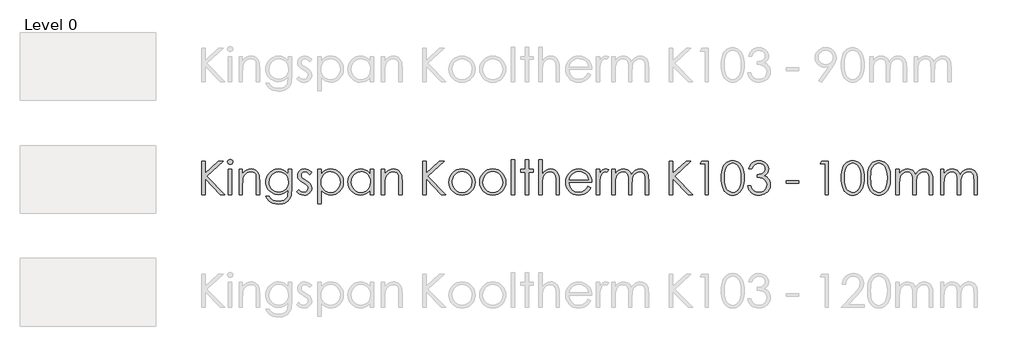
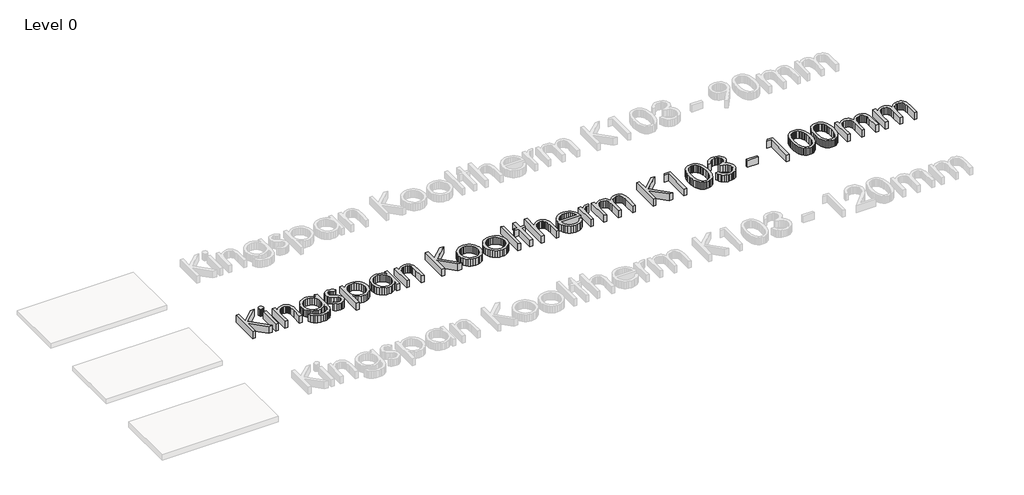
# One storey, part 5 of 13: 1 proxy.
"""IFC4 building model written with IfcOpenShell, lengths in millimetres."""

from ifc_helpers import new_model, si_unit, origin, origin_with_axes, place, context, project, spatial, polyline, outline, extrude, element, save

model = new_model("IFC4")

# Units and contexts
model_context = context("Model", 3, world=origin())
ifc_project = project(units=[si_unit("LENGTHUNIT", "METRE", prefix="MILLI")], contexts=[model_context])

# Site, building, storey
site = spatial("IfcSite", under=ifc_project)
building = spatial("IfcBuilding", under=site)
storey = spatial("IfcBuildingStorey", under=building, Name="Level 0", Elevation=0.0)

# Proxy
placement = place(None, origin())
element("IfcBuildingElementProxy", 1, Name="600mm KI_CenturyGothic", ObjectType="600mm KI_CenturyGothic", at=placement, inside=storey, context=model_context, shape_type="SweptSolid", body=[
    extrude(outline(polyline([(-3852.2663848, -10099.1034017), (-3792.944575, -10099.1034017), (-3792.944575, -10318.316027), (-3555.1938841, -10099.1034017), (-3471.6181051, -10099.1034017), (-3760.9664119, -10366.0515459), (-3441.9572002, -10692.3214999), (-3520.8984627, -10692.3214999), (-3792.944575, -10414.0960325), (-3792.944575, -10692.3214999), (-3852.2663848, -10692.3214999), (-3852.2663848, -10099.1034017)])), origin_with_axes(), (0.0, 0.0, 1.0), 150.0),
    extrude(outline(polyline([(-3348.1854852, -10069.4424967), (-3329.145347, -10072.7252792), (-3313.1176445, -10082.5736265), (-3302.226531, -10097.0178693), (-3298.5961598, -10114.088338), (-3302.226531, -10130.9270809), (-3313.1176445, -10145.2940817), (-3329.145347, -10155.142429), (-3348.1854852, -10158.4252115), (-3366.9938975, -10155.142429), (-3382.9443581, -10145.2940817), (-3393.8354717, -10130.9270809), (-3397.4658428, -10114.088338), (-3393.8354717, -10097.0178693), (-3382.9443581, -10082.5736265), (-3366.9938975, -10072.7252792), (-3348.1854852, -10069.4424967)])), origin_with_axes(), (0.0, 0.0, 1.0), 150.0),
    extrude(outline(polyline([(-3377.6919062, -10247.4079262), (-3318.3700964, -10247.4079262), (-3318.3700964, -10692.3214999), (-3377.6919062, -10692.3214999), (-3377.6919062, -10247.4079262)])), origin_with_axes(), (0.0, 0.0, 1.0), 150.0),
    extrude(outline(polyline([(-3189.8395084, -10247.4079262), (-3130.5176986, -10247.4079262), (-3130.5176986, -10326.5036726), (-3096.9946967, -10286.9944204), (-3060.0730495, -10259.303185), (-3019.7141359, -10242.9665147), (-2975.879335, -10237.5209579), (-2953.4357238, -10239.0995901), (-2932.2955704, -10243.8354865), (-2912.4588747, -10251.7286472), (-2893.9256368, -10262.7790723), (-2877.212412, -10276.5039994), (-2862.835756, -10292.4206667), (-2841.0921499, -10330.8292213), (-2833.6238199, -10355.2087086), (-2828.2892984, -10385.5551357), (-2824.0216812, -10464.1488095), (-2824.0216812, -10692.3214999), (-2883.343491, -10692.3214999), (-2883.343491, -10479.1337458), (-2883.343491, -10376.092998), (-2884.7290183, -10355.2956057), (-2889.8125035, -10337.2403023), (-2898.2849788, -10321.9270877), (-2910.1464442, -10309.355962), (-2924.7403432, -10299.5558909), (-2941.4101193, -10292.5558401), (-2980.977303, -10286.9557994), (-3005.3471351, -10289.1137461), (-3028.4038541, -10295.5875862), (-3050.1474602, -10306.3773197), (-3070.5779533, -10321.4829466), (-3088.6622225, -10339.7651482), (-3103.3671568, -10360.084606), (-3114.6927562, -10382.44132), (-3122.6390208, -10406.8352901), (-3128.5480292, -10453.9142525), (-3130.5176986, -10528.4141035), (-3130.5176986, -10692.3214999), (-3189.8395084, -10692.3214999), (-3189.8395084, -10247.4079262)])), origin_with_axes(), (0.0, 0.0, 1.0), 150.0),
    extrude(outline(polyline([(-2319.7862977, -10247.4079262), (-2260.4644879, -10247.4079262), (-2260.4644879, -10598.395301), (-2264.5196897, -10678.6496765), (-2269.588692, -10709.4499001), (-2276.6852953, -10734.0321474), (-2289.9371156, -10762.6454585), (-2307.2924139, -10787.7732271), (-2328.7511904, -10809.4154531), (-2354.3134448, -10827.5721366), (-2383.3226209, -10841.9343098), (-2415.122162, -10852.1930049), (-2449.7120682, -10858.348222), (-2487.0923395, -10860.3999611), (-2541.0458345, -10856.3833802), (-2589.206184, -10844.3336376), (-2630.260275, -10825.5059147), (-2662.8949946, -10801.1553932), (-2690.2000204, -10767.8061856), (-2715.2650299, -10721.9824048), (-2655.94322, -10721.9824048), (-2642.4355358, -10743.151524), (-2627.0933555, -10761.3951046), (-2609.9166791, -10776.7131468), (-2590.9055067, -10789.1056506), (-2569.7894914, -10798.6691682), (-2546.2982864, -10805.5002523), (-2492.1903075, -10810.9651195), (-2438.5071593, -10805.6354257), (-2415.083541, -10798.9733084), (-2393.93856, -10789.6463441), (-2359.6624492, -10765.6047903), (-2336.8567664, -10736.1176798), (-2329.3884364, -10717.4782342), (-2324.0539149, -10693.7697863), (-2319.7862977, -10631.1458835), (-2319.7862977, -10608.4367532), (-2354.757586, -10644.2190818), (-2396.6420279, -10670.6165148), (-2443.392712, -10686.8952536), (-2492.9627269, -10692.3214999), (-2522.4063889, -10690.4242447), (-2550.9521133, -10684.7324793), (-2578.5999001, -10675.2462036), (-2605.3497494, -10661.9654175), (-2630.1540674, -10645.4742634), (-2651.9652601, -10626.3568832), (-2670.7833277, -10604.6132772), (-2686.6082702, -10580.2434451), (-2699.1456025, -10553.9280817), (-2708.1008399, -10526.3478816), (-2713.4739824, -10497.5028447), (-2715.2650299, -10467.392971), (-2713.3967404, -10437.1044753), (-2707.7918722, -10407.8780563), (-2698.4504251, -10379.713714), (-2685.3723991, -10352.6114483), (-2668.9971079, -10327.4257483), (-2649.7638648, -10305.0111029), (-2627.67267, -10285.367512), (-2602.7235235, -10268.4949758), (-2575.9833294, -10254.943843), (-2548.5189922, -10245.2644624), (-2520.3305117, -10239.456834), (-2491.4178881, -10237.5209579), (-2444.5320306, -10242.4644421), (-2400.8903346, -10257.2948945), (-2359.6045177, -10283.8661218), (-2319.7862977, -10324.0319306), (-2319.7862977, -10247.4079262)]), holes=[polyline([(-2484.1571458, -10286.9557994), (-2529.0154023, -10292.9806707), (-2570.5908765, -10311.0552847), (-2606.2187212, -10339.7699758), (-2633.2340897, -10377.7150788), (-2650.2659375, -10421.9940208), (-2655.94322, -10469.7102292), (-2653.0080263, -10505.6229036), (-2644.2024452, -10538.2817613), (-2629.5264766, -10567.6868023), (-2608.9801206, -10593.8380266), (-2583.7606272, -10615.296803), (-2555.0652466, -10630.6245004), (-2522.8939786, -10639.8211189), (-2487.2468234, -10642.8866584), (-2451.3244937, -10639.845257), (-2419.1001219, -10630.7210528), (-2390.573708, -10615.5140459), (-2365.7452519, -10594.2242363), (-2345.6382095, -10567.9812872), (-2331.2760363, -10537.9148621), (-2322.6587323, -10504.024961), (-2319.7862977, -10466.3115838), (-2325.0773706, -10417.6105407), (-2340.9505892, -10374.3936754), (-2366.4983608, -10338.1672056), (-2400.8130926, -10310.4373492), (-2440.9982119, -10292.8261869), (-2484.1571458, -10286.9557994)])]), origin_with_axes(), (0.0, 0.0, 1.0), 150.0),
    extrude(outline(polyline([(-1904.5336289, -10298.6965743), (-1940.9918246, -10336.390641), (-1962.9575012, -10314.7628978), (-1984.6721416, -10299.3145098), (-2006.1357456, -10290.045477), (-2027.3483133, -10286.9557994), (-2052.181597, -10291.6289368), (-2073.2300256, -10305.6483489), (-2087.5970264, -10325.8857371), (-2092.3860267, -10349.212803), (-2088.4466878, -10370.7633042), (-2076.628671, -10391.2324183), (-2052.0657341, -10413.400855), (-2010.2006027, -10439.122421), (-1958.3326401, -10471.9888664), (-1939.8428507, -10487.8138088), (-1926.315856, -10503.2332311), (-1909.9791857, -10535.9065716), (-1904.5336289, -10572.4420092), (-1906.9474396, -10598.5884059), (-1914.1888714, -10622.6492701), (-1926.2579245, -10644.624602), (-1943.1545989, -10664.5144015), (-1963.6719892, -10681.0055557), (-1986.6031901, -10692.7849515), (-2011.9482016, -10699.852589), (-2039.7070237, -10702.2084682), (-2077.4397114, -10698.3270607), (-2113.3958344, -10686.6828383), (-2145.4512394, -10668.2027042), (-2171.4817731, -10643.8135617), (-2135.7959969, -10603.3387852), (-2114.0041146, -10624.9665283), (-2091.5749863, -10640.4149163), (-2068.5086121, -10649.6839491), (-2044.8049918, -10652.7736267), (-2013.637869, -10647.1349651), (-1987.4914724, -10630.2189802), (-1969.7644472, -10605.6560434), (-1963.8554388, -10577.0765256), (-1967.7561567, -10553.2860081), (-1979.4583106, -10532.2762005), (-2005.0253927, -10510.5712154), (-2050.2119275, -10483.7682622), (-2099.762632, -10453.1032121), (-2117.441381, -10437.9444814), (-2130.3890611, -10422.9016136), (-2146.3781427, -10390.7689666), (-2151.7078365, -10354.310771), (-2149.5305794, -10330.2643896), (-2142.9988078, -10308.3325063), (-2132.1125219, -10288.5151211), (-2116.8717217, -10270.812234), (-2098.309518, -10256.2473007), (-2077.4590218, -10245.8437769), (-2054.3202332, -10239.6016627), (-2028.8931521, -10237.5209579), (-1997.9481, -10241.3444339), (-1966.9064954, -10252.814862), (-1935.7683384, -10271.9322421), (-1904.5336289, -10298.6965743)])), origin_with_axes(), (0.0, 0.0, 1.0), 150.0),
    extrude(outline(polyline([(-1795.7769776, -10247.4079262), (-1736.4551678, -10247.4079262), (-1736.4551678, -10328.5119631), (-1700.9238754, -10288.2689124), (-1660.4490989, -10259.9211205), (-1614.9922173, -10243.1209986), (-1564.5146096, -10237.5209579), (-1520.0618732, -10241.7596094), (-1478.9305402, -10254.4755637), (-1441.1206107, -10275.668821), (-1406.6320845, -10305.3393811), (-1377.9077381, -10340.9768811), (-1357.3903478, -10380.070958), (-1345.0799137, -10422.6216116), (-1340.9764356, -10468.628842), (-1345.0412927, -10515.5291824), (-1357.235864, -10558.7508754), (-1377.5601494, -10598.293921), (-1406.014149, -10634.1583192), (-1440.2130179, -10663.9302594), (-1477.7719111, -10685.1959309), (-1518.6908288, -10697.9553339), (-1562.9697708, -10702.2084682), (-1612.6170277, -10696.743601), (-1658.0545988, -10680.3489992), (-1699.3211052, -10653.1019049), (-1736.4551678, -10615.07956), (-1736.4551678, -10850.5129928), (-1795.7769776, -10850.5129928), (-1795.7769776, -10247.4079262)]), holes=[polyline([(-1568.5311905, -10286.9557994), (-1602.5852307, -10290.2530647), (-1633.8392507, -10300.1448607), (-1662.2932503, -10316.6311872), (-1687.9472295, -10339.7120444), (-1709.1694525, -10367.6977647), (-1724.3281832, -10398.8986808), (-1733.4234216, -10433.3147926), (-1736.4551678, -10470.9461002), (-1731.048232, -10519.8016272), (-1714.8274246, -10563.4819442), (-1688.5265441, -10600.3263495), (-1652.8793888, -10628.6741414), (-1611.4390881, -10646.7487554), (-1567.7587711, -10652.7736267), (-1525.0632888, -10646.7101344), (-1485.0326535, -10628.5196576), (-1450.2544701, -10599.4187567), (-1423.3163435, -10560.6239924), (-1406.05277, -10515.9588407), (-1400.2982454, -10469.2467775), (-1405.9948385, -10422.3029886), (-1423.0846177, -10377.8695627), (-1449.8103289, -10339.5189395), (-1484.414718, -10310.8235589), (-1524.7157001, -10292.9227393), (-1568.5311905, -10286.9557994)])]), origin_with_axes(), (0.0, 0.0, 1.0), 150.0),
    extrude(outline(polyline([(-807.0801472, -10247.4079262), (-807.0801472, -10692.3214999), (-866.401957, -10692.3214999), (-866.401957, -10616.4699149), (-903.4780882, -10654.3184655), (-944.8797679, -10681.0441767), (-990.4525125, -10696.9173953), (-1040.0418379, -10702.2084682), (-1084.3159523, -10697.9553339), (-1125.2203871, -10685.1959309), (-1162.7551422, -10663.9302594), (-1196.9202178, -10634.1583192), (-1225.340424, -10598.293921), (-1245.6405713, -10558.7508754), (-1257.8206597, -10515.5291824), (-1261.8806892, -10468.628842), (-1257.7820388, -10422.6216116), (-1245.4860875, -10380.070958), (-1224.9928353, -10340.9768811), (-1196.3022822, -10305.3393811), (-1161.8475494, -10275.668821), (-1124.061758, -10254.4755637), (-1082.9449079, -10241.7596094), (-1038.4969991, -10237.5209579), (-987.7490446, -10243.1209986), (-942.0990581, -10259.9211205), (-921.2051134, -10272.6081091), (-901.6242816, -10288.2689124), (-866.401957, -10328.5119631), (-866.401957, -10247.4079262), (-807.0801472, -10247.4079262)]), holes=[polyline([(-1034.3259343, -10286.9557994), (-1078.1414247, -10292.9227393), (-1118.4424068, -10310.8235589), (-1153.0467959, -10339.5189395), (-1179.7725071, -10377.8695627), (-1196.8622863, -10422.3029886), (-1202.5588794, -10469.2467775), (-1196.8043548, -10515.9588407), (-1179.5407813, -10560.6239924), (-1152.6026548, -10599.4187567), (-1117.8244713, -10628.5196576), (-1077.6779731, -10646.7101344), (-1034.6349021, -10652.7736267), (-991.0125165, -10646.7487554), (-949.7460102, -10628.6741414), (-914.2726493, -10600.3263495), (-888.0297002, -10563.4819442), (-871.8088928, -10519.8016272), (-866.401957, -10470.9461002), (-869.4337032, -10433.3147926), (-878.5289416, -10398.8986808), (-893.6876723, -10367.6977647), (-914.9098953, -10339.7120444), (-940.5638746, -10316.6311872), (-969.0178742, -10300.1448607), (-1000.2718941, -10290.2530647), (-1034.3259343, -10286.9557994)])]), origin_with_axes(), (0.0, 0.0, 1.0), 150.0),
    extrude(outline(polyline([(-668.662591, -10247.4079262), (-609.3407811, -10247.4079262), (-609.3407811, -10326.5036726), (-575.8177792, -10286.9944204), (-538.896132, -10259.303185), (-498.5372184, -10242.9665147), (-454.7024175, -10237.5209579), (-432.2588064, -10239.0995901), (-411.1186529, -10243.8354865), (-391.2819572, -10251.7286472), (-372.7487193, -10262.7790723), (-356.0354946, -10276.5039994), (-341.6588385, -10292.4206667), (-319.9152324, -10330.8292213), (-312.4469024, -10355.2087086), (-307.1123809, -10385.5551357), (-302.8447637, -10464.1488095), (-302.8447637, -10692.3214999), (-362.1665735, -10692.3214999), (-362.1665735, -10479.1337458), (-362.1665735, -10376.092998), (-363.5521008, -10355.2956057), (-368.635586, -10337.2403023), (-377.1080613, -10321.9270877), (-388.9695267, -10309.355962), (-403.5634257, -10299.5558909), (-420.2332018, -10292.5558401), (-459.8003855, -10286.9557994), (-484.1702176, -10289.1137461), (-507.2269366, -10295.5875862), (-528.9705427, -10306.3773197), (-549.4010358, -10321.4829466), (-567.485305, -10339.7651482), (-582.1902393, -10360.084606), (-593.5158387, -10382.44132), (-601.4621033, -10406.8352901), (-607.3711117, -10453.9142525), (-609.3407811, -10528.4141035), (-609.3407811, -10692.3214999), (-668.662591, -10692.3214999), (-668.662591, -10247.4079262)])), origin_with_axes(), (0.0, 0.0, 1.0), 150.0),
    extrude(outline(polyline([(62.9730635, -10099.1034017), (122.2948734, -10099.1034017), (122.2948734, -10318.316027), (360.0455643, -10099.1034017), (443.6213432, -10099.1034017), (154.2730365, -10366.0515459), (473.2822481, -10692.3214999), (394.3409856, -10692.3214999), (122.2948734, -10414.0960325), (122.2948734, -10692.3214999), (62.9730635, -10692.3214999), (62.9730635, -10099.1034017)])), origin_with_axes(), (0.0, 0.0, 1.0), 150.0),
    extrude(outline(polyline([(760.1588128, -10237.5209579), (809.4681362, -10242.1458191), (854.3553585, -10256.0204025), (894.8204798, -10279.1447083), (930.8635, -10311.5187363), (957.7630055, -10346.7507161), (976.9769381, -10385.091684), (988.5052976, -10426.54164), (992.3480841, -10471.1005841), (988.283227, -10515.9153921), (976.0886558, -10557.8239721), (955.7643703, -10596.8263241), (927.3103707, -10632.9224481), (892.4742558, -10663.2350819), (853.0036246, -10684.8869632), (808.8984769, -10697.8780919), (760.1588128, -10702.2084682), (711.2839754, -10697.8780919), (667.0822753, -10684.8869632), (627.5537126, -10663.2350819), (592.6982872, -10632.9224481), (564.2442876, -10596.8263241), (543.9200022, -10557.8239721), (531.7254309, -10515.9153921), (527.6605738, -10471.1005841), (531.5033603, -10426.7347449), (543.0317198, -10385.4006518), (562.2456524, -10347.0983049), (589.145158, -10311.8277041), (625.2074886, -10279.3185026), (665.7305413, -10256.0976445), (710.7143161, -10242.1651295), (760.1588128, -10237.5209579)]), holes=[polyline([(760.004329, -10286.9557994), (725.7282181, -10290.3303067), (693.9624704, -10300.4538284), (664.7070856, -10317.3263647), (637.962064, -10340.9479154), (615.6584538, -10369.3584664), (599.7273037, -10400.5980035), (590.1686137, -10434.6665266), (586.9823836, -10471.5640357), (592.7948396, -10519.2995546), (610.2322075, -10563.6364281), (637.5758543, -10601.4270471), (673.1071466, -10629.5238028), (714.6439998, -10646.9611707), (760.004329, -10652.7736267), (805.3646581, -10646.9611707), (846.9015113, -10629.5238028), (882.4328037, -10601.4270471), (909.7764504, -10563.6364281), (927.2138183, -10519.2995546), (933.0262743, -10471.5640357), (929.8255614, -10434.6665266), (920.2234227, -10400.5980035), (904.2198583, -10369.3584664), (881.8148681, -10340.9479154), (854.9974321, -10317.3263647), (825.7565303, -10300.4538284), (794.0921625, -10290.3303067), (760.004329, -10286.9557994)])]), origin_with_axes(), (0.0, 0.0, 1.0), 150.0),
    extrude(outline(polyline([(1303.9420695, -10237.5209579), (1353.2513929, -10242.1458191), (1398.1386152, -10256.0204025), (1438.6037365, -10279.1447083), (1474.6467567, -10311.5187363), (1501.5462622, -10346.7507161), (1520.7601948, -10385.091684), (1532.2885543, -10426.54164), (1536.1313408, -10471.1005841), (1532.0664837, -10515.9153921), (1519.8719125, -10557.8239721), (1499.547627, -10596.8263241), (1471.0936274, -10632.9224481), (1436.2575126, -10663.2350819), (1396.7868813, -10684.8869632), (1352.6817336, -10697.8780919), (1303.9420695, -10702.2084682), (1255.0672321, -10697.8780919), (1210.865532, -10684.8869632), (1171.3369693, -10663.2350819), (1136.4815439, -10632.9224481), (1108.0275443, -10596.8263241), (1087.7032589, -10557.8239721), (1075.5086876, -10515.9153921), (1071.4438305, -10471.1005841), (1075.286617, -10426.7347449), (1086.8149766, -10385.4006518), (1106.0289091, -10347.0983049), (1132.9284147, -10311.8277041), (1168.9907453, -10279.3185026), (1209.5137981, -10256.0976445), (1254.4975728, -10242.1651295), (1303.9420695, -10237.5209579)]), holes=[polyline([(1303.7875857, -10286.9557994), (1269.5114748, -10290.3303067), (1237.7457271, -10300.4538284), (1208.4903423, -10317.3263647), (1181.7453207, -10340.9479154), (1159.4417105, -10369.3584664), (1143.5105604, -10400.5980035), (1133.9518704, -10434.6665266), (1130.7656404, -10471.5640357), (1136.5780963, -10519.2995546), (1154.0154643, -10563.6364281), (1181.359111, -10601.4270471), (1216.8904033, -10629.5238028), (1258.4272565, -10646.9611707), (1303.7875857, -10652.7736267), (1349.1479149, -10646.9611707), (1390.684768, -10629.5238028), (1426.2160604, -10601.4270471), (1453.5597071, -10563.6364281), (1470.997075, -10519.2995546), (1476.809531, -10471.5640357), (1473.6088181, -10434.6665266), (1464.0066795, -10400.5980035), (1448.003115, -10369.3584664), (1425.5981249, -10340.9479154), (1398.7806889, -10317.3263647), (1369.539787, -10300.4538284), (1337.8754193, -10290.3303067), (1303.7875857, -10286.9557994)])]), origin_with_axes(), (0.0, 0.0, 1.0), 150.0),
    extrude(outline(polyline([(1635.0010238, -10079.3294651), (1694.3228337, -10079.3294651), (1694.3228337, -10692.3214999), (1635.0010238, -10692.3214999), (1635.0010238, -10079.3294651)])), origin_with_axes(), (0.0, 0.0, 1.0), 150.0),
    extrude(outline(polyline([(1882.1752314, -10079.3294651), (1941.4970413, -10079.3294651), (1941.4970413, -10247.4079262), (2020.5927877, -10247.4079262), (2020.5927877, -10296.8427677), (1941.4970413, -10296.8427677), (1941.4970413, -10692.3214999), (1882.1752314, -10692.3214999), (1882.1752314, -10296.8427677), (1803.079485, -10296.8427677), (1803.079485, -10247.4079262), (1882.1752314, -10247.4079262), (1882.1752314, -10079.3294651)])), origin_with_axes(), (0.0, 0.0, 1.0), 150.0),
    extrude(outline(polyline([(2119.4624707, -10079.3294651), (2178.7842806, -10079.3294651), (2178.7842806, -10328.0485114), (2212.5583188, -10288.3461544), (2249.6151394, -10260.0756044), (2289.9161216, -10243.1596195), (2333.4226442, -10237.5209579), (2355.8662553, -10239.0995901), (2377.0064088, -10243.8354865), (2396.8431044, -10251.7286472), (2415.3763424, -10262.7790723), (2432.0895671, -10276.4895166), (2446.4662232, -10292.3627352), (2468.2098293, -10330.5974955), (2475.6781593, -10354.9045684), (2481.0126808, -10385.2654784), (2485.280298, -10464.1488095), (2485.280298, -10692.3214999), (2425.9584882, -10692.3214999), (2425.9584882, -10479.1337458), (2424.5681332, -10414.752589), (2420.3970685, -10376.092998), (2406.879729, -10337.2403023), (2397.1665551, -10321.9270877), (2385.4837117, -10309.355962), (2371.840854, -10299.5558909), (2356.2476374, -10292.5558401), (2319.2101273, -10286.9557994), (2296.3416854, -10289.1137461), (2274.6994594, -10295.5875862), (2254.2834492, -10306.3773197), (2235.0936547, -10321.4829466), (2218.1052556, -10339.7651482), (2204.2934312, -10360.084606), (2193.6581816, -10382.44132), (2186.1995068, -10406.8352901), (2180.6380871, -10453.6825267), (2178.7842806, -10528.4141035), (2178.7842806, -10692.3214999), (2119.4624707, -10692.3214999), (2119.4624707, -10079.3294651)])), origin_with_axes(), (0.0, 0.0, 1.0), 150.0),
    extrude(outline(polyline([(2991.0605203, -10544.0169753), (3038.950523, -10569.1978477), (3013.3255094, -10611.0822896), (2984.0315038, -10644.0452875), (2950.952643, -10669.1296074), (2913.9730643, -10687.3780157), (2872.4941426, -10698.5008551), (2825.9172528, -10702.2084682), (2774.4258447, -10697.7767119), (2728.8627554, -10684.481443), (2689.227985, -10662.3226615), (2655.5215335, -10631.3003674), (2628.6220279, -10594.6973431), (2609.4080954, -10555.7963712), (2597.8797358, -10514.5974515), (2594.0369493, -10471.1005841), (2597.3197318, -10430.2202874), (2607.1680791, -10391.618628), (2623.5819913, -10355.2956057), (2646.5614684, -10321.2512207), (2682.7493173, -10284.6192308), (2724.5758277, -10258.4535236), (2772.0409998, -10242.7540993), (2825.1448334, -10237.5209579), (2879.7935059, -10242.8892727), (2928.6490329, -10258.9942172), (2971.7114143, -10285.8357913), (3008.9806503, -10323.4139951), (3030.4539096, -10355.585263), (3045.9022976, -10391.541386), (3055.3258143, -10431.2823641), (3058.7244596, -10474.8081972), (2653.3587591, -10474.8081972), (2657.095338, -10512.0629503), (2666.6057518, -10545.8128504), (2681.8900007, -10576.0578975), (2702.9480845, -10602.7980916), (2728.3124066, -10624.6623882), (2756.5153699, -10640.2797429), (2787.5569744, -10649.6501557), (2821.4372203, -10652.7736267), (2854.9602222, -10649.761191), (2887.5563208, -10640.7238841), (2917.2944677, -10626.6851615), (2942.2436143, -10608.668479), (2965.725164, -10582.5027719), (2991.0605203, -10544.0169753)]), holes=[polyline([(2999.4026498, -10425.3733557), (2984.9777175, -10382.8516678), (2965.1844704, -10349.8307385), (2939.0766947, -10324.3022774), (2905.7081767, -10304.257994), (2867.7630738, -10291.2813481), (2827.9255433, -10286.9557994), (2795.503239, -10289.6689226), (2765.4368139, -10297.808292), (2737.726268, -10311.3739077), (2712.3716012, -10330.3657696), (2695.8321708, -10348.179692), (2681.4362043, -10369.9522638), (2669.1837016, -10395.683485), (2659.0746627, -10425.3733557), (2999.4026498, -10425.3733557)])]), origin_with_axes(), (0.0, 0.0, 1.0), 150.0),
    extrude(outline(polyline([(3137.820206, -10247.4079262), (3197.1420159, -10247.4079262), (3197.1420159, -10311.8277041), (3222.6897875, -10278.7874643), (3249.589293, -10255.6728138), (3277.7632906, -10242.0589219), (3307.1345382, -10237.5209579), (3330.4616041, -10241.305813), (3355.3335087, -10252.6603781), (3325.8270877, -10294.6799934), (3297.2475699, -10286.9557994), (3270.8308265, -10292.9034288), (3245.3409863, -10310.7463169), (3223.2884125, -10341.1023993), (3207.183468, -10384.5896114), (3199.6523789, -10442.7141712), (3197.1420159, -10540.1548783), (3197.1420159, -10692.3214999), (3137.820206, -10692.3214999), (3137.820206, -10247.4079262)])), origin_with_axes(), (0.0, 0.0, 1.0), 150.0),
    extrude(outline(polyline([(3414.6553185, -10247.4079262), (3473.9771284, -10247.4079262), (3473.9771284, -10323.5684789), (3503.5607913, -10287.0716623), (3533.9168737, -10261.9294109), (3577.3268439, -10243.6230712), (3622.8995884, -10237.5209579), (3653.7384329, -10240.668567), (3682.9165757, -10250.1113941), (3708.6767627, -10264.7873627), (3729.2617397, -10283.634396), (3746.0425511, -10309.0663047), (3760.3902414, -10343.4968994), (3775.16759, -10319.0981017), (3791.6925376, -10297.808292), (3809.965084, -10279.6274704), (3829.9852293, -10264.5556369), (3851.2798666, -10252.7279648), (3873.375889, -10244.2796277), (3896.2732965, -10239.2106253), (3919.9720892, -10237.5209579), (3962.3006723, -10243.3334139), (3981.4952943, -10250.5989839), (3999.3768034, -10260.7707818), (4015.4914031, -10273.53984), (4029.385297, -10288.5971907), (4050.5109676, -10325.5767694), (4057.8103309, -10348.9521114), (4063.0241619, -10377.5219739), (4067.1952266, -10450.2452603), (4067.1952266, -10692.3214999), (4007.8734168, -10692.3214999), (4007.8734168, -10446.6921311), (4005.4209852, -10385.5744462), (3998.0636904, -10347.1272706), (3984.7587663, -10322.6608861), (3964.4634466, -10303.4855746), (3938.3942919, -10291.0882432), (3907.7678627, -10286.9557994), (3888.1194443, -10288.5054659), (3869.3399976, -10293.1544651), (3834.3880198, -10311.7504621), (3805.6540182, -10340.6968791), (3785.8800816, -10377.9468046), (3779.1889985, -10402.1042213), (3774.4096535, -10433.1747916), (3770.5861775, -10516.0553931), (3770.5861775, -10692.3214999), (3711.2643677, -10692.3214999), (3711.2643677, -10461.9860352), (3708.850557, -10393.530366), (3701.6091252, -10351.2983353), (3688.3621325, -10325.0553863), (3667.9316394, -10304.5669617), (3641.6114484, -10291.35859), (3610.6953619, -10286.9557994), (3573.7544042, -10292.9999812), (3539.2465676, -10311.1325266), (3510.2808401, -10339.499629), (3489.9662099, -10376.2474819), (3477.9743988, -10428.0768236), (3473.9771284, -10501.6883923), (3473.9771284, -10692.3214999), (3414.6553185, -10692.3214999), (3414.6553185, -10247.4079262)])), origin_with_axes(), (0.0, 0.0, 1.0), 150.0),
    extrude(outline(polyline([(4433.0130538, -10099.1034017), (4492.3348637, -10099.1034017), (4492.3348637, -10318.316027), (4730.0855546, -10099.1034017), (4813.6613335, -10099.1034017), (4524.3130268, -10366.0515459), (4843.3222385, -10692.3214999), (4764.3809759, -10692.3214999), (4492.3348637, -10414.0960325), (4492.3348637, -10692.3214999), (4433.0130538, -10692.3214999), (4433.0130538, -10099.1034017)])), origin_with_axes(), (0.0, 0.0, 1.0), 150.0),
    extrude(outline(polyline([(5010.6282802, -10099.1034017), (5125.1008351, -10099.1034017), (5125.1008351, -10692.3214999), (5065.7790253, -10692.3214999), (5065.7790253, -10148.5382432), (4976.7963106, -10148.5382432), (5010.6282802, -10099.1034017)])), origin_with_axes(), (0.0, 0.0, 1.0), 150.0),
    extrude(outline(polyline([(5352.5011061, -10395.8669347), (5354.0797383, -10341.4355052), (5358.8156347, -10293.5406748), (5366.7087954, -10252.1824436), (5377.7592204, -10217.3608116), (5391.6869077, -10187.7192172), (5408.2118552, -10161.9010988), (5427.334063, -10139.9064564), (5449.053531, -10121.73529), (5472.747496, -10107.5082902), (5497.793195, -10097.3461475), (5524.190628, -10091.2488619), (5551.9397949, -10089.2164334), (5580.1427582, -10091.2633448), (5606.974677, -10097.404079), (5632.4355515, -10107.638636), (5656.5253815, -10121.9670159), (5678.7083011, -10140.3843909), (5698.4484443, -10162.8859335), (5715.7458112, -10189.4716437), (5730.6004018, -10220.1415214), (5742.5294539, -10255.6583309), (5751.0502054, -10296.7848363), (5756.1626563, -10343.5210375), (5757.8668066, -10395.8669347), (5756.1867944, -10448.0535203), (5751.1467578, -10494.6207548), (5742.7466968, -10535.5686382), (5730.9866115, -10570.8971704), (5716.2768496, -10601.4222195), (5699.0277589, -10627.9596535), (5679.2393394, -10650.5094723), (5656.9115912, -10669.071676), (5632.6527944, -10683.5690226), (5607.0712295, -10693.9242701), (5580.1668963, -10700.1374187), (5551.9397949, -10702.2084682), (5524.2147661, -10700.2001778), (5497.8897474, -10694.1753064), (5472.964739, -10684.1338543), (5449.4397407, -10670.0758212), (5427.8651013, -10652.0398282), (5408.7911698, -10630.0644964), (5392.2179461, -10604.1498255), (5378.1454301, -10574.2958158), (5366.9260384, -10539.2762513), (5358.9121871, -10497.8649163), (5354.1038764, -10450.0618107), (5352.5011061, -10395.8669347)]), holes=[polyline([(5411.8229159, -10395.7124508), (5416.206396, -10484.038609), (5421.6857461, -10519.0195525), (5429.3568363, -10547.8790723), (5439.1713903, -10572.1185586), (5451.0811319, -10593.2394015), (5465.0860611, -10611.2416011), (5481.1861779, -10626.1251574), (5516.4857445, -10646.1115094), (5534.8886366, -10651.1080973), (5553.7936014, -10652.7736267), (5572.7854634, -10651.1418907), (5591.1400794, -10646.2466828), (5625.9375733, -10626.665851), (5641.694929, -10611.9898824), (5655.4439943, -10594.0697524), (5667.1847692, -10572.9054608), (5676.9172536, -10548.4970078), (5686.3793912, -10515.1381451), (5693.138061, -10478.5544313), (5698.5449967, -10395.7124508), (5693.7173755, -10314.1063413), (5687.682849, -10279.4150551), (5679.2345118, -10248.7982811), (5668.652366, -10222.135329), (5656.2164137, -10199.3055082), (5641.9266548, -10180.3088186), (5625.7830894, -10165.1452603), (5590.7152487, -10145.2747712), (5572.4861509, -10140.307149), (5553.7936014, -10138.6512749), (5534.7776014, -10140.307149), (5516.3505711, -10145.2747712), (5481.2634199, -10165.1452603), (5465.3177869, -10179.9564022), (5451.3900996, -10197.8958428), (5439.480358, -10218.9635819), (5429.5885621, -10243.1596195), (5421.8160919, -10272.0143117), (5416.2643275, -10307.0580143), (5411.8229159, -10395.7124508)])]), origin_with_axes(), (0.0, 0.0, 1.0), 150.0),
    extrude(outline(polyline([(5896.2843628, -10237.5209579), (5836.962553, -10237.5209579), (5847.4867673, -10203.8917483), (5861.9116996, -10174.3756721), (5880.2373498, -10148.9727291), (5902.463718, -10127.6829194), (5927.7314876, -10110.8538318), (5955.181342, -10098.8330549), (5984.8132812, -10091.6205887), (6016.6273051, -10089.2164334), (6062.9145376, -10094.3723328), (6105.9962296, -10109.8400313), (6142.7827034, -10134.0553795), (6170.1842816, -10165.454228), (6187.2161294, -10201.2365567), (6192.8934119, -10238.6023451), (6188.2106193, -10274.037085), (6174.1622415, -10305.5711069), (6150.7482785, -10333.2044109), (6117.9687303, -10356.936997), (6155.3538292, -10378.1012885), (6185.3237018, -10407.2987418), (6201.6120959, -10431.398227), (6213.2466631, -10456.8880672), (6220.2274034, -10483.7682622), (6222.5543169, -10512.0388122), (6220.8549942, -10536.7031292), (6215.7570261, -10560.7977868), (6207.2604128, -10584.3227851), (6195.365154, -10607.2781241), (6180.5347016, -10628.6644862), (6163.232507, -10647.4825538), (6143.4585704, -10663.7323269), (6121.2128917, -10677.4138055), (6097.0361646, -10688.2614704), (6071.4690825, -10696.0098025), (6044.5116454, -10700.6588018), (6016.1638535, -10702.2084682), (5978.6290984, -10699.5387936), (5944.3481599, -10691.52977), (5913.3210382, -10678.1813973), (5885.5477332, -10659.4936754), (5861.6654909, -10635.6403989), (5842.3115573, -10606.795362), (5827.4859325, -10572.9585647), (5817.1886164, -10534.130007), (5876.5104262, -10534.130007), (5895.5505644, -10584.8779615), (5907.6485832, -10604.169136), (5921.4652352, -10619.4051087), (5941.5288291, -10634.0038353), (5964.180028, -10644.4314972), (5989.4188318, -10650.6880943), (6017.2452407, -10652.7736267), (6048.6054683, -10650.2777465), (6076.7215344, -10642.7901059), (6101.593439, -10630.310705), (6123.2211822, -10612.8395438), (6140.7261368, -10592.0180133), (6153.2296758, -10569.487505), (6160.7317992, -10545.2480188), (6163.232507, -10519.2995546), (6158.2310914, -10484.7337865), (6143.2268446, -10452.4080346), (6119.8032263, -10425.0450774), (6089.5436964, -10405.3676933), (6046.6357988, -10392.5648417), (5985.2670776, -10385.8254825), (5985.2670776, -10336.390641), (6027.1515195, -10332.7409593), (6065.0580014, -10321.7919143), (6096.0706403, -10305.2042077), (6117.2735528, -10284.6385412), (6129.4970898, -10261.0797496), (6133.5716021, -10235.5126675), (6131.5102078, -10216.4821845), (6125.326025, -10198.7841251), (6115.0190537, -10182.4184891), (6100.5892938, -10167.3852765), (6083.0119248, -10154.8141508), (6063.2621263, -10145.8347753), (6041.3398983, -10140.44715), (6017.2452407, -10138.6512749), (5979.2228958, -10144.270626), (5946.7233496, -10161.1286794), (5932.4191078, -10174.3322235), (5919.2445295, -10191.4654513), (5896.2843628, -10237.5209579)])), origin_with_axes(), (0.0, 0.0, 1.0), 150.0),
    extrude(outline(polyline([(6499.3894294, -10445.1472923), (6726.7897004, -10445.1472923), (6726.7897004, -10494.5821338), (6499.3894294, -10494.5821338), (6499.3894294, -10445.1472923)])), origin_with_axes(), (0.0, 0.0, 1.0), 150.0),
    extrude(outline(polyline([(7136.3264656, -10099.1034017), (7250.7990205, -10099.1034017), (7250.7990205, -10692.3214999), (7191.4772106, -10692.3214999), (7191.4772106, -10148.5382432), (7102.4944959, -10148.5382432), (7136.3264656, -10099.1034017)])), origin_with_axes(), (0.0, 0.0, 1.0), 150.0),
    extrude(outline(polyline([(7478.1992914, -10395.8669347), (7479.7779236, -10341.4355052), (7484.51382, -10293.5406748), (7492.4069808, -10252.1824436), (7503.4574058, -10217.3608116), (7517.3850931, -10187.7192172), (7533.9100406, -10161.9010988), (7553.0322483, -10139.9064564), (7574.7517163, -10121.73529), (7598.4456813, -10107.5082902), (7623.4913804, -10097.3461475), (7649.8888133, -10091.2488619), (7677.6379802, -10089.2164334), (7705.8409435, -10091.2633448), (7732.6728624, -10097.404079), (7758.1337368, -10107.638636), (7782.2235668, -10121.9670159), (7804.4064864, -10140.3843909), (7824.1466297, -10162.8859335), (7841.4439966, -10189.4716437), (7856.2985871, -10220.1415214), (7868.2276392, -10255.6583309), (7876.7483907, -10296.7848363), (7881.8608416, -10343.5210375), (7883.5649919, -10395.8669347), (7881.8849797, -10448.0535203), (7876.8449431, -10494.6207548), (7868.4448822, -10535.5686382), (7856.6847968, -10570.8971704), (7841.9750349, -10601.4222195), (7824.7259442, -10627.9596535), (7804.9375247, -10650.5094723), (7782.6097765, -10669.071676), (7758.3509797, -10683.5690226), (7732.7694148, -10693.9242701), (7705.8650816, -10700.1374187), (7677.6379802, -10702.2084682), (7649.9129514, -10700.2001778), (7623.5879328, -10694.1753064), (7598.6629243, -10684.1338543), (7575.137926, -10670.0758212), (7553.5632867, -10652.0398282), (7534.4893551, -10630.0644964), (7517.9161314, -10604.1498255), (7503.8436155, -10574.2958158), (7492.6242237, -10539.2762513), (7484.6103725, -10497.8649163), (7479.8020617, -10450.0618107), (7478.1992914, -10395.8669347)]), holes=[polyline([(7537.5211013, -10395.7124508), (7541.9045814, -10484.038609), (7547.3839315, -10519.0195525), (7555.0550216, -10547.8790723), (7564.8695756, -10572.1185586), (7576.7793172, -10593.2394015), (7590.7842464, -10611.2416011), (7606.8843633, -10626.1251574), (7642.1839298, -10646.1115094), (7660.586822, -10651.1080973), (7679.4917868, -10652.7736267), (7698.4836487, -10651.1418907), (7716.8382647, -10646.2466828), (7751.6357586, -10626.665851), (7767.3931143, -10611.9898824), (7781.1421796, -10594.0697524), (7792.8829545, -10572.9054608), (7802.6154389, -10548.4970078), (7812.0775766, -10515.1381451), (7818.8362463, -10478.5544313), (7824.2431821, -10395.7124508), (7819.4155608, -10314.1063413), (7813.3810343, -10279.4150551), (7804.9326971, -10248.7982811), (7794.3505514, -10222.135329), (7781.914599, -10199.3055082), (7767.6248402, -10180.3088186), (7751.4812747, -10165.1452603), (7716.413434, -10145.2747712), (7698.1843362, -10140.307149), (7679.4917868, -10138.6512749), (7660.4757867, -10140.307149), (7642.0487564, -10145.2747712), (7606.9616052, -10165.1452603), (7591.0159723, -10179.9564022), (7577.088285, -10197.8958428), (7565.1785434, -10218.9635819), (7555.2867474, -10243.1596195), (7547.5142772, -10272.0143117), (7541.9625128, -10307.0580143), (7537.5211013, -10395.7124508)])]), origin_with_axes(), (0.0, 0.0, 1.0), 150.0),
    extrude(outline(polyline([(7942.8868017, -10395.8669347), (7944.4654339, -10341.4355052), (7949.2013303, -10293.5406748), (7957.094491, -10252.1824436), (7968.1449161, -10217.3608116), (7982.0726034, -10187.7192172), (7998.5975509, -10161.9010988), (8017.7197586, -10139.9064564), (8039.4392266, -10121.73529), (8063.1331916, -10107.5082902), (8088.1788906, -10097.3461475), (8114.5763236, -10091.2488619), (8142.3254905, -10089.2164334), (8170.5284538, -10091.2633448), (8197.3603726, -10097.404079), (8222.8212471, -10107.638636), (8246.9110771, -10121.9670159), (8269.0939967, -10140.3843909), (8288.8341399, -10162.8859335), (8306.1315069, -10189.4716437), (8320.9860974, -10220.1415214), (8332.9151495, -10255.6583309), (8341.435901, -10296.7848363), (8346.5483519, -10343.5210375), (8348.2525022, -10395.8669347), (8346.57249, -10448.0535203), (8341.5324534, -10494.6207548), (8333.1323925, -10535.5686382), (8321.3723071, -10570.8971704), (8306.6625452, -10601.4222195), (8289.4134545, -10627.9596535), (8269.625035, -10650.5094723), (8247.2972868, -10669.071676), (8223.03849, -10683.5690226), (8197.4569251, -10693.9242701), (8170.5525919, -10700.1374187), (8142.3254905, -10702.2084682), (8114.6004617, -10700.2001778), (8088.2754431, -10694.1753064), (8063.3504346, -10684.1338543), (8039.8254363, -10670.0758212), (8018.2507969, -10652.0398282), (7999.1768654, -10630.0644964), (7982.6036417, -10604.1498255), (7968.5311258, -10574.2958158), (7957.311734, -10539.2762513), (7949.2978827, -10497.8649163), (7944.489572, -10450.0618107), (7942.8868017, -10395.8669347)]), holes=[polyline([(8002.2086116, -10395.7124508), (8006.5920916, -10484.038609), (8012.0714418, -10519.0195525), (8019.7425319, -10547.8790723), (8029.5570859, -10572.1185586), (8041.4668275, -10593.2394015), (8055.4717567, -10611.2416011), (8071.5718736, -10626.1251574), (8106.8714401, -10646.1115094), (8125.2743323, -10651.1080973), (8144.179297, -10652.7736267), (8163.171159, -10651.1418907), (8181.525775, -10646.2466828), (8216.3232689, -10626.665851), (8232.0806246, -10611.9898824), (8245.8296899, -10594.0697524), (8257.5704648, -10572.9054608), (8267.3029492, -10548.4970078), (8276.7650868, -10515.1381451), (8283.5237566, -10478.5544313), (8288.9306924, -10395.7124508), (8284.1030711, -10314.1063413), (8278.0685446, -10279.4150551), (8269.6202074, -10248.7982811), (8259.0380616, -10222.135329), (8246.6021093, -10199.3055082), (8232.3123504, -10180.3088186), (8216.168785, -10165.1452603), (8181.1009443, -10145.2747712), (8162.8718465, -10140.307149), (8144.179297, -10138.6512749), (8125.163297, -10140.307149), (8106.7362667, -10145.2747712), (8071.6491155, -10165.1452603), (8055.7034825, -10179.9564022), (8041.7757953, -10197.8958428), (8029.8660536, -10218.9635819), (8019.9742577, -10243.1596195), (8012.2017875, -10272.0143117), (8006.6500231, -10307.0580143), (8002.2086116, -10395.7124508)])]), origin_with_axes(), (0.0, 0.0, 1.0), 150.0),
    extrude(outline(polyline([(8447.1221852, -10247.4079262), (8506.4439951, -10247.4079262), (8506.4439951, -10323.5684789), (8536.027658, -10287.0716623), (8566.3837404, -10261.9294109), (8609.7937106, -10243.6230712), (8655.3664551, -10237.5209579), (8686.2052996, -10240.668567), (8715.3834424, -10250.1113941), (8741.1436294, -10264.7873627), (8761.7286063, -10283.634396), (8778.5094178, -10309.0663047), (8792.8571081, -10343.4968994), (8807.6344567, -10319.0981017), (8824.1594042, -10297.808292), (8842.4319506, -10279.6274704), (8862.4520959, -10264.5556369), (8883.7467332, -10252.7279648), (8905.8427557, -10244.2796277), (8928.7401632, -10239.2106253), (8952.4389559, -10237.5209579), (8994.7675389, -10243.3334139), (9013.962161, -10250.5989839), (9031.8436701, -10260.7707818), (9047.9582698, -10273.53984), (9061.8521637, -10288.5971907), (9082.9778343, -10325.5767694), (9090.2771976, -10348.9521114), (9095.4910285, -10377.5219739), (9099.6620933, -10450.2452603), (9099.6620933, -10692.3214999), (9040.3402835, -10692.3214999), (9040.3402835, -10446.6921311), (9037.8878519, -10385.5744462), (9030.5305571, -10347.1272706), (9017.225633, -10322.6608861), (8996.9303133, -10303.4855746), (8970.8611585, -10291.0882432), (8940.2347294, -10286.9557994), (8920.5863109, -10288.5054659), (8901.8068643, -10293.1544651), (8866.8548865, -10311.7504621), (8838.1208849, -10340.6968791), (8818.3469483, -10377.9468046), (8811.6558652, -10402.1042213), (8806.8765202, -10433.1747916), (8803.0530442, -10516.0553931), (8803.0530442, -10692.3214999), (8743.7312343, -10692.3214999), (8743.7312343, -10461.9860352), (8741.3174237, -10393.530366), (8734.0759919, -10351.2983353), (8720.8289992, -10325.0553863), (8700.3985061, -10304.5669617), (8674.0783151, -10291.35859), (8643.1622286, -10286.9557994), (8606.2212709, -10292.9999812), (8571.7134342, -10311.1325266), (8542.7477068, -10339.499629), (8522.4330766, -10376.2474819), (8510.4412654, -10428.0768236), (8506.4439951, -10501.6883923), (8506.4439951, -10692.3214999), (8447.1221852, -10692.3214999), (8447.1221852, -10247.4079262)])), origin_with_axes(), (0.0, 0.0, 1.0), 150.0),
    extrude(outline(polyline([(9238.0796495, -10247.4079262), (9297.4014594, -10247.4079262), (9297.4014594, -10323.5684789), (9326.9851223, -10287.0716623), (9357.3412047, -10261.9294109), (9400.7511749, -10243.6230712), (9446.3239194, -10237.5209579), (9477.1627639, -10240.668567), (9506.3409067, -10250.1113941), (9532.1010937, -10264.7873627), (9552.6860706, -10283.634396), (9569.4668821, -10309.0663047), (9583.8145724, -10343.4968994), (9598.591921, -10319.0981017), (9615.1168685, -10297.808292), (9633.389415, -10279.6274704), (9653.4095602, -10264.5556369), (9674.7041975, -10252.7279648), (9696.80022, -10244.2796277), (9719.6976275, -10239.2106253), (9743.3964202, -10237.5209579), (9785.7250032, -10243.3334139), (9804.9196253, -10250.5989839), (9822.8011344, -10260.7707818), (9838.9157341, -10273.53984), (9852.809628, -10288.5971907), (9873.9352986, -10325.5767694), (9881.2346619, -10348.9521114), (9886.4484928, -10377.5219739), (9890.6195576, -10450.2452603), (9890.6195576, -10692.3214999), (9831.2977478, -10692.3214999), (9831.2977478, -10446.6921311), (9828.8453162, -10385.5744462), (9821.4880214, -10347.1272706), (9808.1830973, -10322.6608861), (9787.8877776, -10303.4855746), (9761.8186229, -10291.0882432), (9731.1921937, -10286.9557994), (9711.5437752, -10288.5054659), (9692.7643286, -10293.1544651), (9657.8123508, -10311.7504621), (9629.0783492, -10340.6968791), (9609.3044126, -10377.9468046), (9602.6133295, -10402.1042213), (9597.8339845, -10433.1747916), (9594.0105085, -10516.0553931), (9594.0105085, -10692.3214999), (9534.6886987, -10692.3214999), (9534.6886987, -10461.9860352), (9532.274888, -10393.530366), (9525.0334562, -10351.2983353), (9511.7864635, -10325.0553863), (9491.3559704, -10304.5669617), (9465.0357794, -10291.35859), (9434.1196929, -10286.9557994), (9397.1787352, -10292.9999812), (9362.6708986, -10311.1325266), (9333.7051711, -10339.499629), (9313.3905409, -10376.2474819), (9301.3987298, -10428.0768236), (9297.4014594, -10501.6883923), (9297.4014594, -10692.3214999), (9238.0796495, -10692.3214999), (9238.0796495, -10247.4079262)])), origin_with_axes(), (0.0, 0.0, 1.0), 150.0),
])

save(model, "model.ifc")
